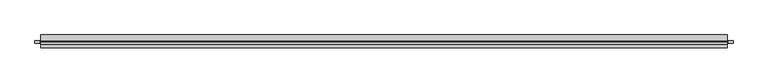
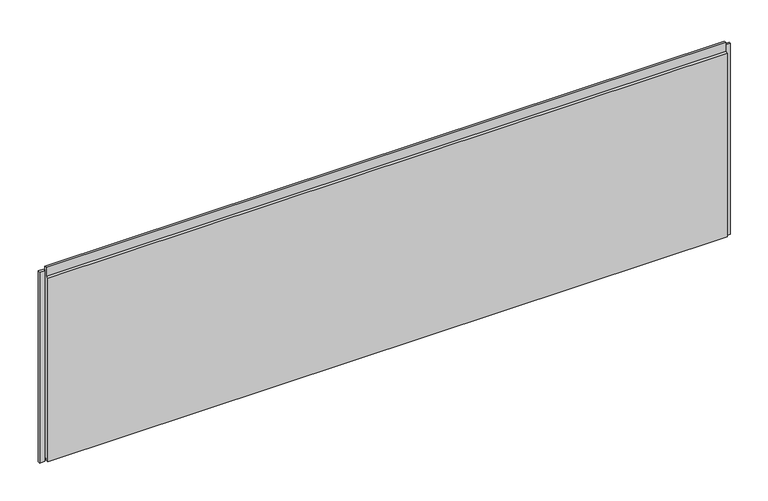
"""IFC4 building model written with IfcOpenShell, lengths in millimetres: plate geometry, Trimo_Qbiss Screen_Normal Panel-HORIZONTAL : HR - B."""

from ifc_helpers import new_model, si_unit, frame, origin, place, context, project, spatial, polyline, outline, extrude, source, transform, mapped, element, save


def plate_1f7b568e(model_context):
    return source(origin(), model_context, "Body", "SweptSolid", [
        extrude(outline(polyline([(-1327.25, 76.5978162), (-1327.25, 67.8978162), (-1346.25, 67.8978162), (-1346.25, 76.5978162), (-1327.25, 76.5978162)])), frame((0.0, 0.0, -1.0), z_axis=(0.0, 0.0, 1.0), x_axis=(1.0, 0.0, 0.0)), (0.0, 0.0, 1.0), 787.95),
        extrude(outline(polyline([(1331.75, 67.8978162), (1331.75, 76.5978162), (1350.75, 76.5978162), (1350.75, 67.8978162), (1331.75, 67.8978162)])), frame((0.0, 0.0, -1.0), z_axis=(0.0, 0.0, 1.0), x_axis=(1.0, 0.0, 0.0)), (0.0, 0.0, 1.0), 787.95),
        extrude(outline(polyline([(1328.75, 76.0), (1328.75, 71.0), (-1324.25, 71.0), (-1324.25, 76.0), (1328.75, 76.0)])), frame((0.0, 0.0, 765.95), z_axis=(0.0, 0.0, 1.0), x_axis=(1.0, 0.0, 0.0)), (0.0, 0.0, 1.0), 21.0),
        extrude(outline(polyline([(71.0, 764.95), (100.0, 764.95), (100.0, 0.0), (72.0, 0.0), (72.0, 15.5), (62.0, 15.5), (62.0, 7.0), (50.0, 7.0), (50.0, 764.95), (63.0, 764.95), (63.0, 802.45), (71.0, 802.45), (71.0, 764.95)])), frame((-1324.25, 0.0, 0.0), z_axis=(1.0, 0.0, 0.0), x_axis=(0.0, 1.0, 0.0)), (0.0, 0.0, 1.0), 2653.0),
    ])


if __name__ == "__main__":
    model = new_model("IFC4")
    model_context = context("Model", 3, world=origin())
    ifc_project = project(units=[si_unit("LENGTHUNIT", "METRE", prefix="MILLI")], contexts=[model_context])
    site = spatial("IfcSite", under=ifc_project)
    building = spatial("IfcBuilding", under=site)
    placement = place(None, origin())
    plate_shape = plate_1f7b568e(model_context)
    element("IfcPlate", 1, ObjectType="Trimo_Qbiss Screen_Normal Panel-HORIZONTAL : HR - B", at=placement, inside=building, context=model_context, shape_type="MappedRepresentation", body=[
        mapped(plate_shape, transform((0.0, 0.0, 0.0), x_axis=(1.0, 0.0, 0.0), y_axis=(0.0, 1.0, 0.0), z_axis=(0.0, 0.0, 1.0))),
    ])
    save(model, "model.ifc")
